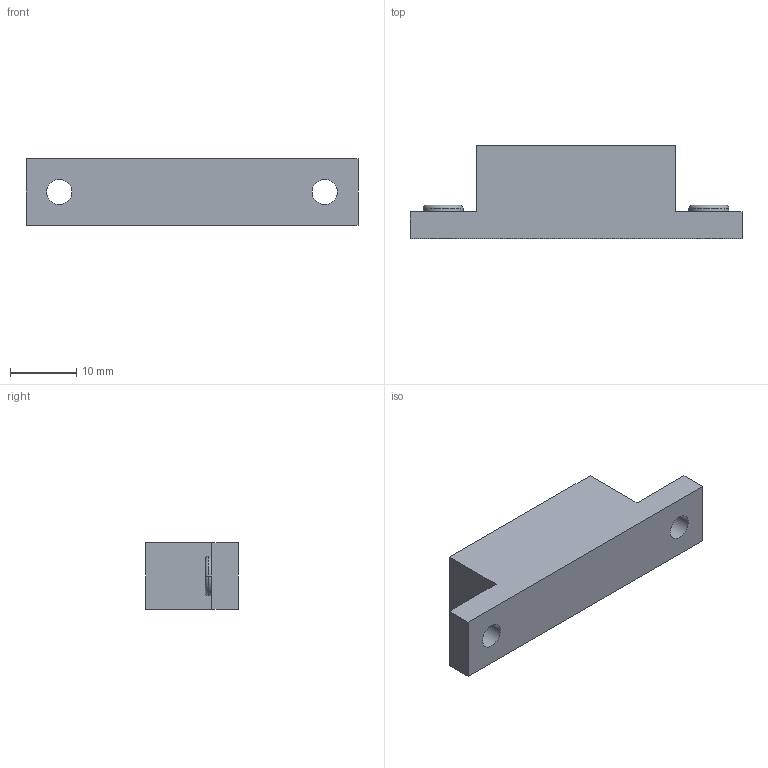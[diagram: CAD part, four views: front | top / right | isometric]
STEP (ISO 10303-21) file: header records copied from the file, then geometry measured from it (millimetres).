
FILE_DESCRIPTION (( 'STEP AP203' ), '1' );
FILE_NAME ('GLS-M1.STEP', '2020-10-14T06:58:04', ( '' ), ( '' ), 'SwSTEP 2.0', 'SolidWorks 2017', '' );
FILE_SCHEMA (( 'CONFIG_CONTROL_DESIGN' ));
Length unit declared in the file: millimetre
Products named in the file (1): GLS-M1
Bounding box: 50 x 14 x 10 mm (x, y, z)
Volume: 4939.8 mm3; surface area: 2378.5 mm2
Topology: 1 solids, 1 shells, 28 faces, 64 edges, 40 vertices
Faces by surface type: plane 12, torus 8, cylinder 8
Entity records: 881 total; most frequent: DIRECTION 154, CARTESIAN_POINT 133, ORIENTED_EDGE 128, EDGE_CURVE 64, AXIS2_PLACEMENT_3D 61, VERTEX_POINT 40, EDGE_LOOP 34, CIRCLE 32
